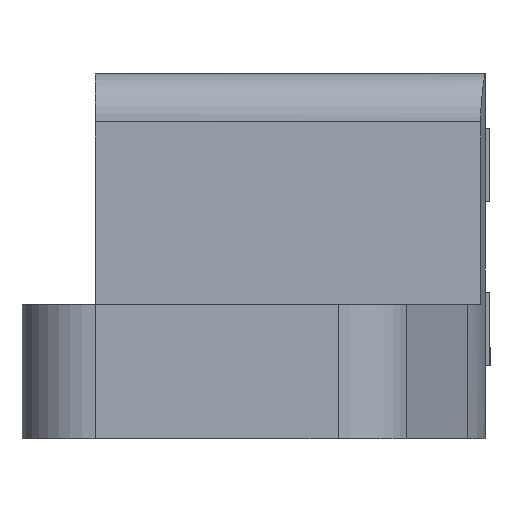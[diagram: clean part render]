
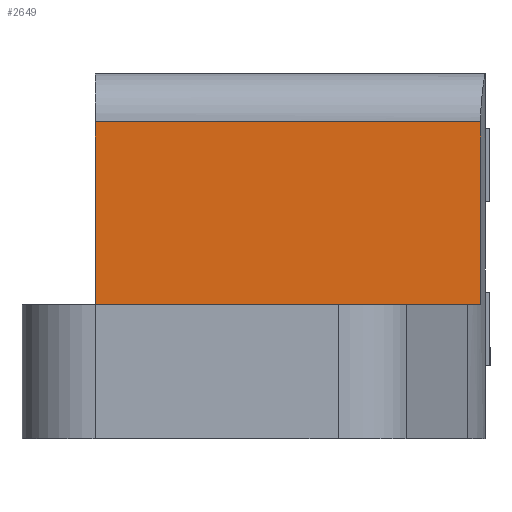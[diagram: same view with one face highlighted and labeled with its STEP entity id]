
A CAD part, left-side view. The second image highlights one B-rep face of the part: STEP entity #2649.
In plain terms, the highlighted planar face has unit normal (-1, 0, 0) as drawn and (0, 1, 0) by its records, which use the part's own axes.
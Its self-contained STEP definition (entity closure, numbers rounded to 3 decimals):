
#968=CARTESIAN_POINT('',(13.0,14.0,-0.187));
#969=VERTEX_POINT('',#968);
#993=CARTESIAN_POINT('',(13.0,14.0,-16.0));
#994=VERTEX_POINT('',#993);
#1002=CARTESIAN_POINT('',(13.0,14.0,-0.187));
#1003=DIRECTION('',(0.0,0.0,-1.0));
#1004=VECTOR('',#1003,15.813);
#1005=LINE('',#1002,#1004);
#1006=EDGE_CURVE('',#969,#994,#1005,.T.);
#1041=CARTESIAN_POINT('',(5.5,14.0,-16.0));
#1042=VERTEX_POINT('',#1041);
#1049=CARTESIAN_POINT('',(5.5,14.0,-16.0));
#1050=DIRECTION('',(1.0,0.0,0.0));
#1051=VECTOR('',#1050,7.5);
#1052=LINE('',#1049,#1051);
#1053=EDGE_CURVE('',#1042,#994,#1052,.T.);
#1792=CARTESIAN_POINT('',(5.5,14.0,-0.187));
#1793=VERTEX_POINT('',#1792);
#1794=CARTESIAN_POINT('',(13.0,14.0,-0.187));
#1795=DIRECTION('',(-1.0,0.0,0.0));
#1796=VECTOR('',#1795,7.5);
#1797=LINE('',#1794,#1796);
#1798=EDGE_CURVE('',#969,#1793,#1797,.T.);
#2633=CARTESIAN_POINT('',(5.125,14.0,-16.791));
#2634=DIRECTION('',(0.0,1.0,0.0));
#2635=DIRECTION('',(0.0,0.0,1.0));
#2636=AXIS2_PLACEMENT_3D('',#2633,#2634,#2635);
#2637=PLANE('',#2636);
#2638=ORIENTED_EDGE('',*,*,#1006,.T.);
#2639=ORIENTED_EDGE('',*,*,#1053,.F.);
#2640=CARTESIAN_POINT('',(5.5,14.0,-0.187));
#2641=DIRECTION('',(0.0,0.0,-1.0));
#2642=VECTOR('',#2641,15.813);
#2643=LINE('',#2640,#2642);
#2644=EDGE_CURVE('',#1793,#1042,#2643,.T.);
#2645=ORIENTED_EDGE('',*,*,#2644,.F.);
#2646=ORIENTED_EDGE('',*,*,#1798,.F.);
#2647=EDGE_LOOP('',(#2638,#2639,#2645,#2646));
#2648=FACE_OUTER_BOUND('',#2647,.T.);
#2649=ADVANCED_FACE('',(#2648),#2637,.T.);
